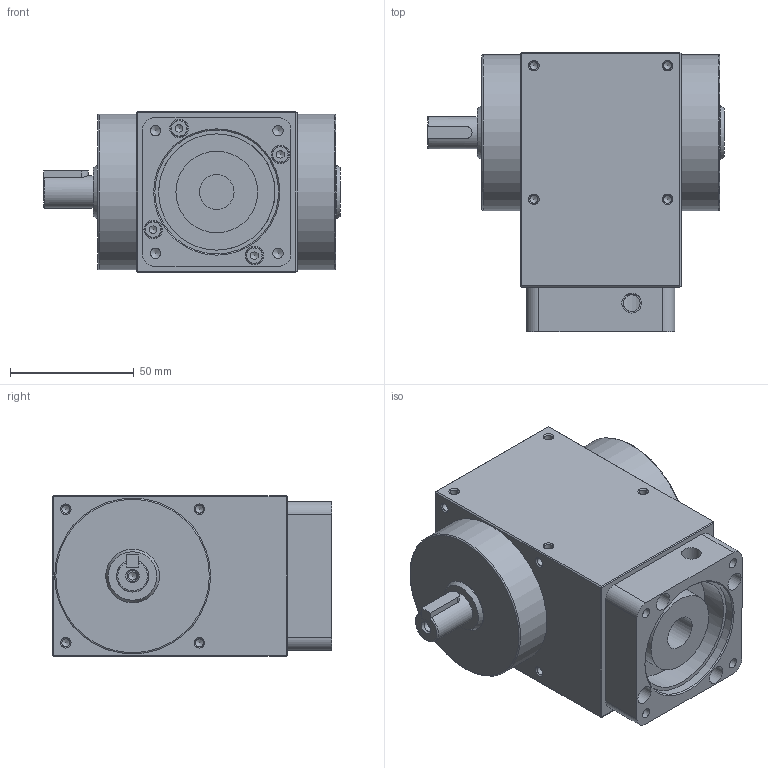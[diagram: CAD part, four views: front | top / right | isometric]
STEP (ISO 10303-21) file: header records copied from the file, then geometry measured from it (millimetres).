
FILE_DESCRIPTION((''),'2;1');
FILE_NAME('D:\유성\SBT 베벨기어박스\최종도면모음\3D\SBT065\홈페이지용\SBT065MLS001K.stp','2014-05-20T09:09:08',('nagyu'),(''),'Autodesk Inventor 2013','Autodesk Inventor 2013','');
FILE_SCHEMA(('AUTOMOTIVE_DESIGN { 1 0 10303 214 1 1 1 1 }'));
Length unit declared in the file: millimetre
Products named in the file (1): SBT065MLS001K_Shrinkwrap_1
Bounding box: 120 x 113 x 65 mm (x, y, z)
Volume: 538553.9 mm3; surface area: 54361.3 mm2
Topology: 1 solids, 5 shells, 233 faces, 597 edges, 368 vertices
Faces by surface type: plane 83, cylinder 82, cone 57, torus 11
Full cylindrical faces by diameter (mm): 3.242 x41, 4 x6, 4.134 x4, 4.3 x1, 4.5 x4, 7 x4, 7.5 x4, 8 x1, 13 x1, 14 x1, 21.7 x2, 33 x1, 47 x1, 50 x1, 63 x2
Entity records: 5867 total; most frequent: CARTESIAN_POINT 1051, DIRECTION 1044, ORIENTED_EDGE 772, AXIS2_PLACEMENT_3D 457, EDGE_LOOP 402, EDGE_CURVE 386, VERTEX_POINT 298, FACE_OUTER_BOUND 233
